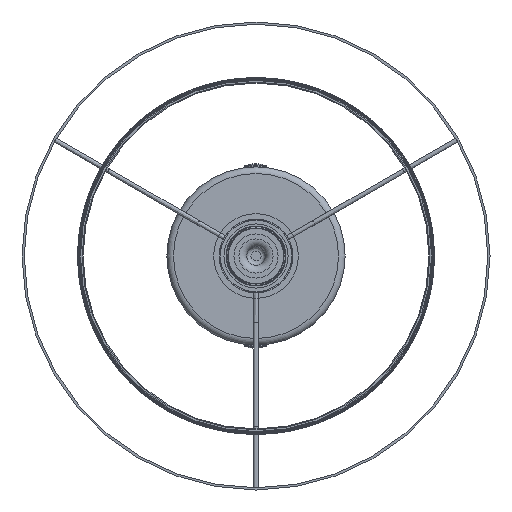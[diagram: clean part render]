
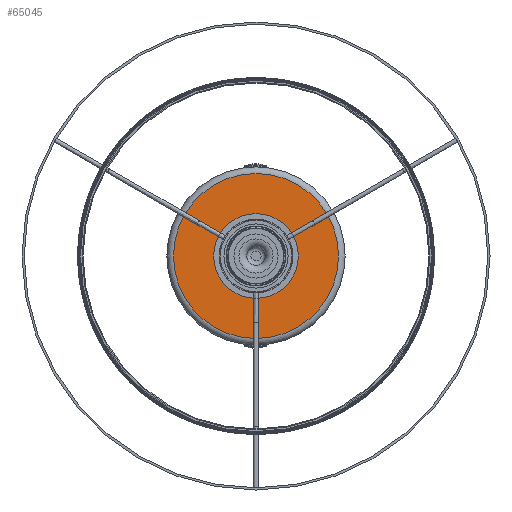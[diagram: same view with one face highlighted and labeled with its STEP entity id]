
A CAD part, front view. The second image highlights one B-rep face of the part: STEP entity #65045.
In plain terms, the highlighted planar face has unit normal (0, -1, 0).
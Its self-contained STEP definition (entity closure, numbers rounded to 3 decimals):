
#7011=PLANE('',#71731);
#10994=FACE_OUTER_BOUND('',#15055,.T.);
#15055=EDGE_LOOP('',(#59591));
#24235=CIRCLE('',#71725,37.);
#30671=VERTEX_POINT('',#262043);
#40311=EDGE_CURVE('',#30671,#30671,#24235,.T.);
#59591=ORIENTED_EDGE('',*,*,#40311,.F.);
#65045=ADVANCED_FACE('',(#10994),#7011,.T.);
#71725=AXIS2_PLACEMENT_3D('',#262044,#87329,#87330);
#71731=AXIS2_PLACEMENT_3D('',#262054,#87342,#87343);
#87329=DIRECTION('center_axis',(0.,1.,0.));
#87330=DIRECTION('ref_axis',(1.,0.,0.));
#87342=DIRECTION('center_axis',(0.,-1.,0.));
#87343=DIRECTION('ref_axis',(1.,0.,0.));
#262043=CARTESIAN_POINT('',(0.,1623.4,37.));
#262044=CARTESIAN_POINT('Origin',(0.,1623.4,0.));
#262054=CARTESIAN_POINT('Origin',(0.,1623.4,0.));
